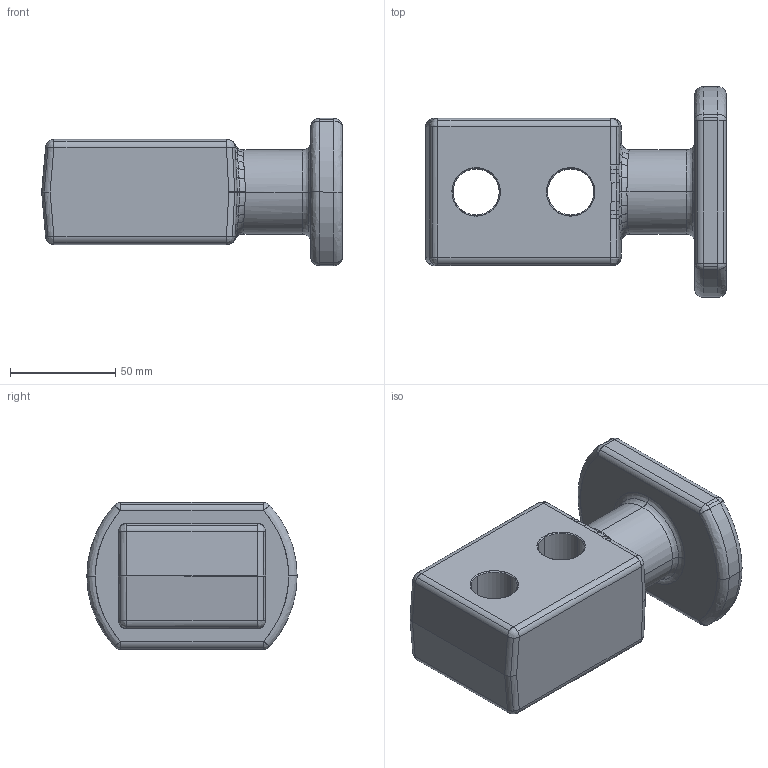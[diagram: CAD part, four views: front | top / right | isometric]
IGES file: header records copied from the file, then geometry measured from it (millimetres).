
Global section: file name: E:\UnigraphicsGraphicData\MISUMI_PRESS-PARTS\IGES\3d_chpl40_03566_r00.igs; native system: NX V5.0; preprocessor: UGS NX IGES V5.0; author: MISUMI; date: 20110105.160236; units: millimetre
Bounding box: 143 x 100 x 70 mm (x, y, z)
Surface area: 50341.8 mm2 (no closed solid volume)
Topology: 0 solids, 0 shells, 210 faces, 1061 edges, 1043 vertices
Faces by surface type: bspline 210
